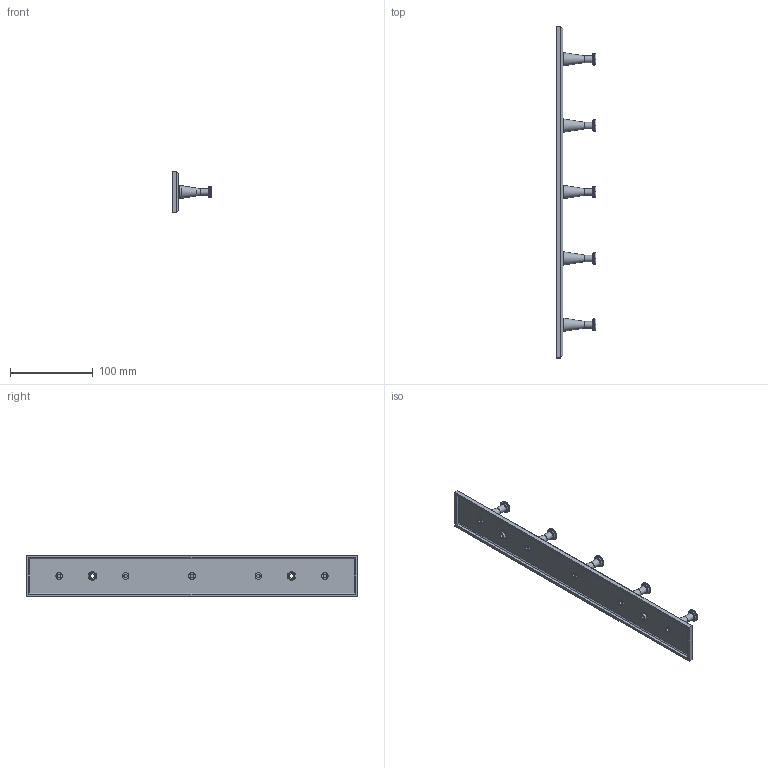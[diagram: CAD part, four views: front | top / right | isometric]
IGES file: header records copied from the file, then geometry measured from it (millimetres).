
Start section: C
Global section: file name: 8164.igs; native system: By Siemens PLM Incorporated; preprocessor: XPlus GENERIC/IGES 16.0.42; author: Author; organization: Title; date: 20231119.150923; units: millimetre
Bounding box: 48 x 400 x 50 mm (x, y, z)
Surface area: 66228.6 mm2 (no closed solid volume)
Topology: 0 solids, 0 shells, 145 faces, 738 edges, 738 vertices
Faces by surface type: bspline 145
